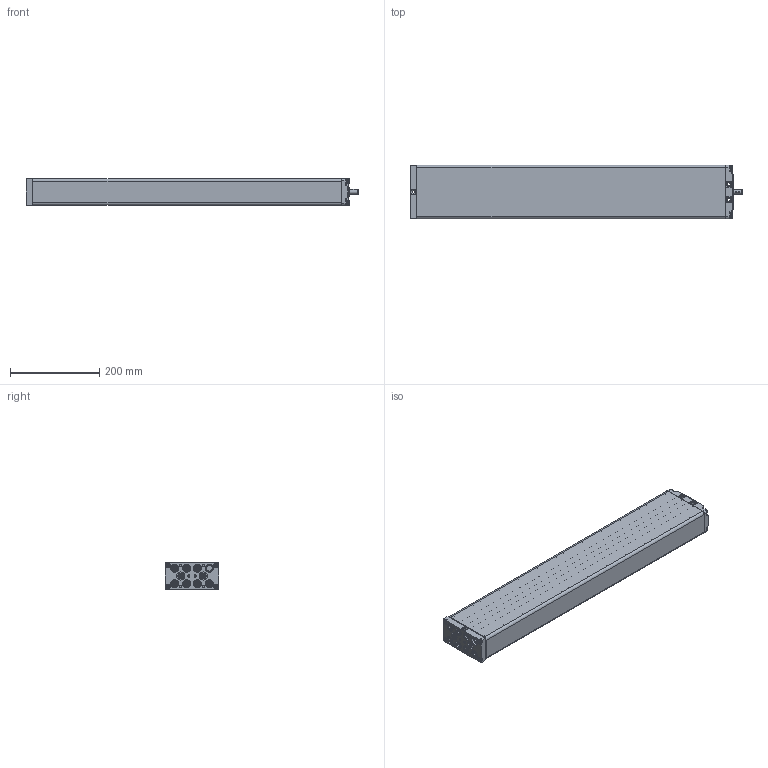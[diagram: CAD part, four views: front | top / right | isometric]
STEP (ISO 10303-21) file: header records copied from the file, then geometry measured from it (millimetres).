
FILE_DESCRIPTION(/* description */ ('Unknown'),/* implementation_level */ '2;1');
FILE_NAME(/* name */ '102.00275 Pumpe PB 9850 W',/* time_stamp */ '2016-11-25T15:18:00+01:00',/* author */ ('Unknown'),/* organization */ ('Unknown'),/* preprocessor_version */ 'ST-DEVELOPER v16.7',/* originating_system */ 'DEX',/* authorisation */ $);
FILE_SCHEMA (('AUTOMOTIVE_DESIGN {1 0 10303 214 3 1 1}'));
Products named in the file (16): 102.00275; 115.10035; 125.00061; 115.00008; 142.00021; 125.00021; 142.00013; 125.00145; 115.00140; 126.00006; 122.00040; 119.00045; 126.00036; 142.00057; 142.00083; 142.00017
Assembly tree (34 placements, depth 3):
  102.00275
    115.10035  x9
      125.00061
      115.00008
      142.00021
      125.00021
    142.00013  x8
    125.00145
    115.00140
      126.00006
      122.00040
    119.00045
    126.00036
    142.00057
    142.00083  x4
    142.00017  x2
Bounding box: 744.5 x 120 x 60.3 mm (x, y, z)
Volume: 915450.4 mm3; surface area: 628091.6 mm2
Topology: 47 solids, 47 shells, 2205 faces, 5007 edges, 2933 vertices
Faces by surface type: plane 787, cylinder 502, bspline 377, cone 368, torus 112, sphere 59
Full cylindrical faces by diameter (mm): 3.5 x9, 4.1 x9, 4.134 x4, 4.2 x9, 4.917 x2, 5 x12, 5.8 x4, 6 x2, 6.8 x1, 6.917 x18, 8 x19, 8.5 x4, 9.8 x8, 10 x5, 10.4 x1, 10.5 x4, 12.5 x9, 13 x28, 14 x1, 14.4 x9, 17.9 x18, 18 x11, 19 x1
Entity records: 60407 total; most frequent: CARTESIAN_POINT 28878, ORIENTED_EDGE 5076, DIRECTION 4437, EDGE_CURVE 2538, AXIS2_PLACEMENT_3D 1722, VERTEX_POINT 1603, FACE_BOUND 1413, EDGE_LOOP 1412
